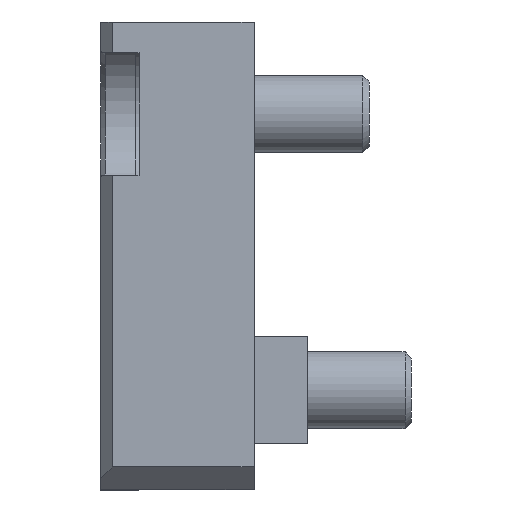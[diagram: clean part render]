
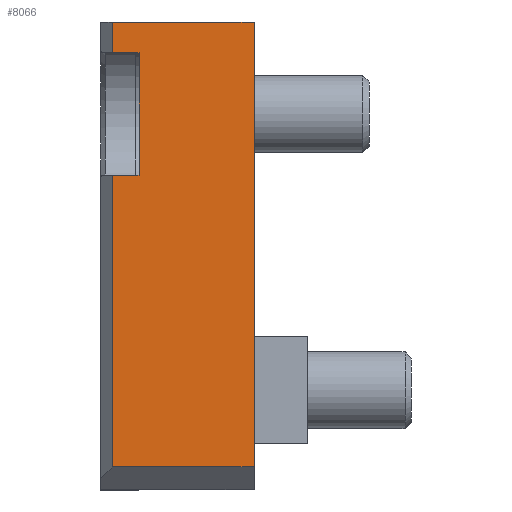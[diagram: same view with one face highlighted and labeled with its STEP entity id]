
A CAD part, left-side view. The second image highlights one B-rep face of the part: STEP entity #8066.
In plain terms, the highlighted planar face has unit normal (-1, 0, 0).
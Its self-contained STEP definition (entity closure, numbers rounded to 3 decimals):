
#5736 = CARTESIAN_POINT ( 'NONE',  ( -82.5, 18.5, 41. ) ) ;
#5769 = CARTESIAN_POINT ( 'NONE',  ( -82.5, 18.5, 61. ) ) ;
#5842 = CARTESIAN_POINT ( 'NONE',  ( -82.5, 18.5, 57. ) ) ;
#5844 = CARTESIAN_POINT ( 'NONE',  ( -82.5, 15., 57. ) ) ;
#5846 = DIRECTION ( 'NONE',  ( 0., 1., 0. ) ) ;
#5847 = VECTOR ( 'NONE', #5846, 1000. ) ;
#5849 = CARTESIAN_POINT ( 'NONE',  ( -82.5, 15., 57. ) ) ;
#5850 = LINE ( 'NONE', #5849, #5847 ) ;
#5869 = DIRECTION ( 'NONE',  ( 0., 0., -1. ) ) ;
#5871 = VECTOR ( 'NONE', #5869, 1000. ) ;
#5872 = CARTESIAN_POINT ( 'NONE',  ( -82.5, 18.5, 57. ) ) ;
#5874 = LINE ( 'NONE', #5872, #5871 ) ;
#5941 = CARTESIAN_POINT ( 'NONE',  ( -82.5, 15., 41. ) ) ;
#5943 = DIRECTION ( 'NONE',  ( 0., 1., 0. ) ) ;
#5944 = VECTOR ( 'NONE', #5943, 1000. ) ;
#5946 = CARTESIAN_POINT ( 'NONE',  ( -82.5, 15., 41. ) ) ;
#5947 = LINE ( 'NONE', #5946, #5944 ) ;
#6143 = CARTESIAN_POINT ( 'NONE',  ( -82.5, 18.5, 3. ) ) ;
#6523 = DIRECTION ( 'NONE',  ( 0., 0., -1. ) ) ;
#6525 = VECTOR ( 'NONE', #6523, 1000. ) ;
#6526 = CARTESIAN_POINT ( 'NONE',  ( -82.5, 18.5, 3. ) ) ;
#6528 = LINE ( 'NONE', #6526, #6525 ) ;
#6894 = DIRECTION ( 'NONE',  ( 0., 0., -1. ) ) ;
#6895 = DIRECTION ( 'NONE',  ( 1., 0., 0. ) ) ;
#6896 = CARTESIAN_POINT ( 'NONE',  ( -82.5, 20., 0. ) ) ;
#6897 = AXIS2_PLACEMENT_3D ( 'NONE', #6896, #6895, #6894 ) ;
#6898 = PLANE ( 'NONE',  #6897 ) ;
#6900 = FACE_OUTER_BOUND ( 'NONE', #8067, .T. ) ;
#6901 = DIRECTION ( 'NONE',  ( 0., 0., 1. ) ) ;
#6902 = VECTOR ( 'NONE', #6901, 1000. ) ;
#6903 = CARTESIAN_POINT ( 'NONE',  ( -82.5, 15., 0. ) ) ;
#6904 = LINE ( 'NONE', #6903, #6902 ) ;
#6905 = DIRECTION ( 'NONE',  ( 0., -1., 0. ) ) ;
#6906 = VECTOR ( 'NONE', #6905, 1000. ) ;
#6907 = CARTESIAN_POINT ( 'NONE',  ( -82.5, 20., 61. ) ) ;
#6908 = LINE ( 'NONE', #6907, #6906 ) ;
#6909 = CARTESIAN_POINT ( 'NONE',  ( -82.5, 0., 61. ) ) ;
#6910 = DIRECTION ( 'NONE',  ( 0., 0., 1. ) ) ;
#6911 = VECTOR ( 'NONE', #6910, 1000. ) ;
#6912 = CARTESIAN_POINT ( 'NONE',  ( -82.5, 0., 0. ) ) ;
#6913 = LINE ( 'NONE', #6912, #6911 ) ;
#6914 = CARTESIAN_POINT ( 'NONE',  ( -82.5, 0., 3. ) ) ;
#6915 = DIRECTION ( 'NONE',  ( 0., -1., 0. ) ) ;
#6916 = VECTOR ( 'NONE', #6915, 1000. ) ;
#6917 = CARTESIAN_POINT ( 'NONE',  ( -82.5, 20., 3. ) ) ;
#6921 = LINE ( 'NONE', #6917, #6916 ) ;
#7637 = VERTEX_POINT ( 'NONE', #5769 ) ;
#7649 = VERTEX_POINT ( 'NONE', #5736 ) ;
#7660 = EDGE_CURVE ( 'NONE', #7661, #7662, #5850, .T. ) ;
#7661 = VERTEX_POINT ( 'NONE', #5844 ) ;
#7662 = VERTEX_POINT ( 'NONE', #5842 ) ;
#7696 = EDGE_CURVE ( 'NONE', #7637, #7662, #5874, .T. ) ;
#7711 = EDGE_CURVE ( 'NONE', #7712, #7649, #5947, .T. ) ;
#7712 = VERTEX_POINT ( 'NONE', #5941 ) ;
#7783 = VERTEX_POINT ( 'NONE', #6143 ) ;
#7895 = EDGE_CURVE ( 'NONE', #7649, #7783, #6528, .T. ) ;
#8044 = ORIENTED_EDGE ( 'NONE', *, *, #7711, .T. ) ;
#8045 = ORIENTED_EDGE ( 'NONE', *, *, #7895, .T. ) ;
#8046 = ORIENTED_EDGE ( 'NONE', *, *, #8047, .T. ) ;
#8047 = EDGE_CURVE ( 'NONE', #7783, #8048, #6921, .T. ) ;
#8048 = VERTEX_POINT ( 'NONE', #6914 ) ;
#8049 = ORIENTED_EDGE ( 'NONE', *, *, #8050, .T. ) ;
#8050 = EDGE_CURVE ( 'NONE', #8048, #8051, #6913, .T. ) ;
#8051 = VERTEX_POINT ( 'NONE', #6909 ) ;
#8052 = ORIENTED_EDGE ( 'NONE', *, *, #8053, .F. ) ;
#8053 = EDGE_CURVE ( 'NONE', #7637, #8051, #6908, .T. ) ;
#8054 = ORIENTED_EDGE ( 'NONE', *, *, #7696, .T. ) ;
#8055 = ORIENTED_EDGE ( 'NONE', *, *, #7660, .F. ) ;
#8056 = ORIENTED_EDGE ( 'NONE', *, *, #8060, .F. ) ;
#8060 = EDGE_CURVE ( 'NONE', #7712, #7661, #6904, .T. ) ;
#8066 = ADVANCED_FACE ( 'NONE', ( #6900 ), #6898, .F. ) ;
#8067 = EDGE_LOOP ( 'NONE', ( #8044, #8045, #8046, #8049, #8052, #8054, #8055, #8056 ) ) ;
